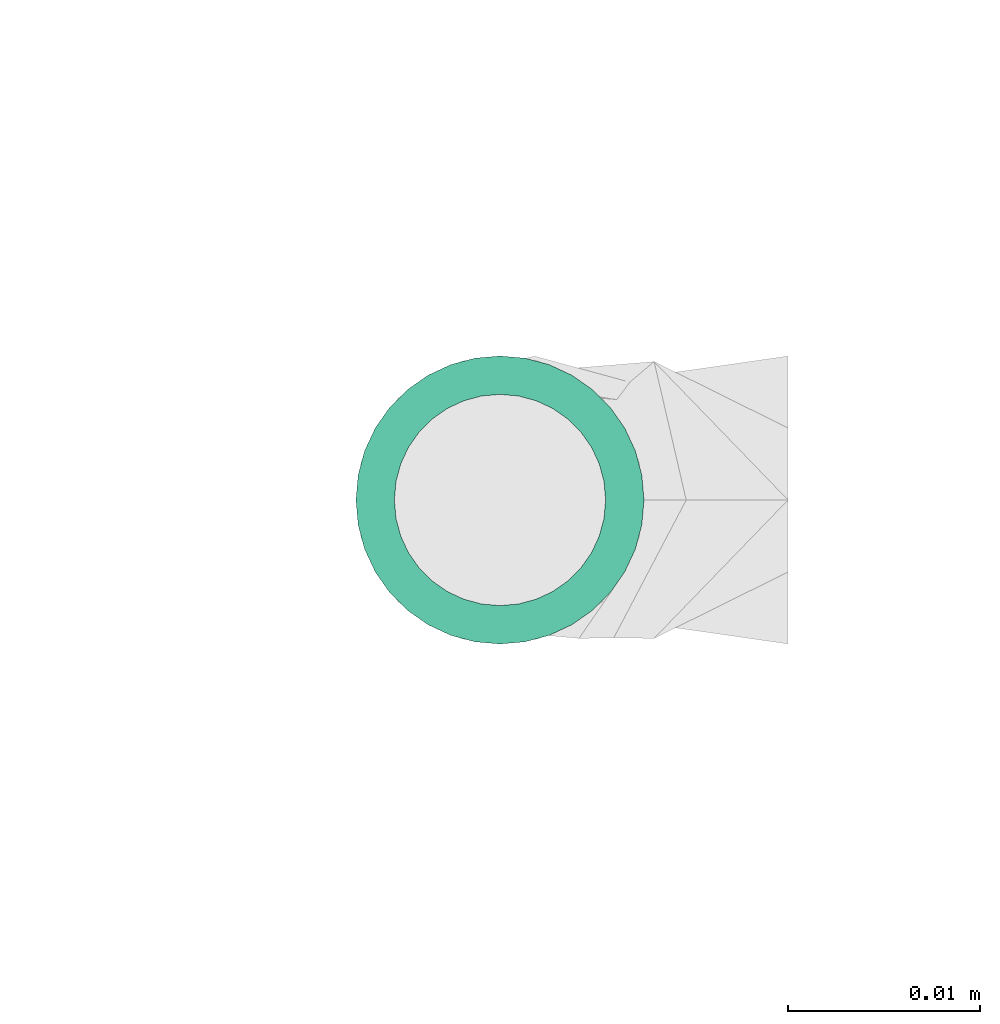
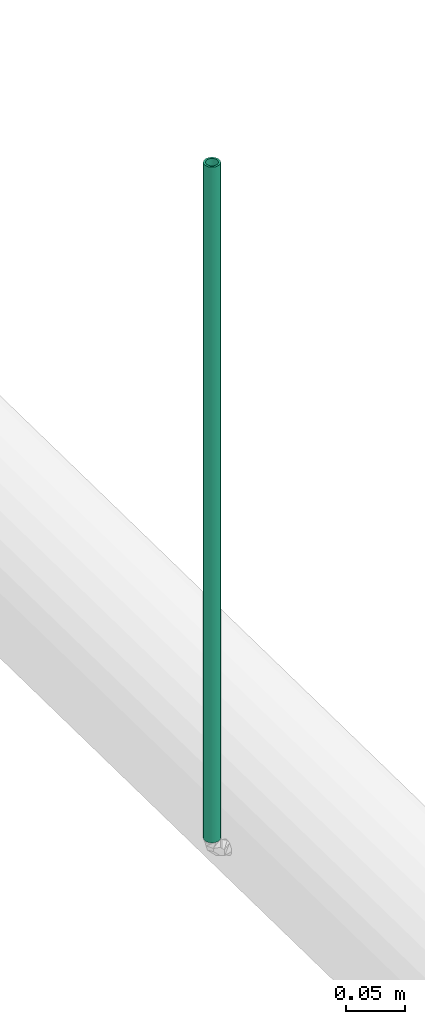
# One storey, part 132 of 156: 1 flow segment.
"""IFC2X3 building model written with IfcOpenShell, lengths in millimetres."""

from ifc_helpers import new_model, entity, si_unit, converted_unit, derived_unit, direction, frame, place, context, subcontext, project, spatial, faceted_brep, type_object, element, save


model = new_model("IFC2X3")

# Units and contexts
model_context = context("Model", 3, precision=0.01, world=frame((0.0, 4.29681676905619e-09, 0.0)), true_north=direction((4.01073788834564e-13, 1.0)))
plan_context = context("Plan", 3, precision=0.01, world=frame((0.0, 4.29681676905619e-09, 0.0)), true_north=direction((4.01073788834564e-13, 1.0)))
body_context = subcontext(model_context, "Body", "Model", "MODEL_VIEW")
ifc_project = project(units=[converted_unit("PLANEANGLEUNIT", "DEGREE", entity("IfcPositiveLengthMeasure", 0.0174532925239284), si_unit("PLANEANGLEUNIT", "RADIAN"), dimensions=[0, 0, 0, 0, 0, 0, 0]), si_unit("AREAUNIT", "SQUARE_METRE"), si_unit("LENGTHUNIT", "METRE", prefix="MILLI"), si_unit("MASSUNIT", "GRAM", prefix="KILO"), si_unit("POWERUNIT", "WATT"), si_unit("PRESSUREUNIT", "PASCAL", prefix="KILO"), si_unit("FORCEUNIT", "NEWTON", prefix="KILO"), si_unit("ELECTRICVOLTAGEUNIT", "VOLT"), si_unit("ELECTRICCURRENTUNIT", "AMPERE"), si_unit("THERMODYNAMICTEMPERATUREUNIT", "DEGREE_CELSIUS"), si_unit("TIMEUNIT", "SECOND"), si_unit("VOLUMEUNIT", "CUBIC_METRE"), derived_unit("LINEARVELOCITYUNIT", [(si_unit("LENGTHUNIT", "METRE"), 1), (si_unit("TIMEUNIT", "SECOND"), -1)]), derived_unit("VOLUMETRICFLOWRATEUNIT", [(si_unit("VOLUMEUNIT", "CUBIC_METRE"), 1), (si_unit("TIMEUNIT", "SECOND"), -1)]), derived_unit("THERMALTRANSMITTANCEUNIT", [(si_unit("POWERUNIT", "WATT"), 1), (si_unit("THERMODYNAMICTEMPERATUREUNIT", "KELVIN"), -1), (si_unit("AREAUNIT", "SQUARE_METRE"), -1)]), derived_unit("SOUNDPRESSUREUNIT", [(si_unit("PRESSUREUNIT", "PASCAL"), 1)])], contexts=[model_context, plan_context])

# Site, building, storey
site_placement = place(None, frame((0.0, -4.29681676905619e-09, 0.0), z_axis=(0.0, 0.0, 1.0), x_axis=(1.0, 0.0, 0.0)))
site = spatial("IfcSite", under=ifc_project, at=site_placement, CompositionType="ELEMENT")
building_placement = place(site_placement, frame((0.0, 4.29681676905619e-09, 0.0), z_axis=(0.0, 0.0, 1.0), x_axis=(1.0, 0.0, 0.0)))
building = spatial("IfcBuilding", under=site, at=building_placement, Name="mc-building", CompositionType="ELEMENT")
storey_placement = place(building_placement, frame((0.0, 0.0, 205200.0), z_axis=(0.0, 0.0, 1.0), x_axis=(1.0, 0.0, 0.0)))
storey = spatial("IfcBuildingStorey", under=building, at=storey_placement, Name="Nivå D + 1,2 m", CompositionType="ELEMENT", Elevation=205200.0)

# Flow segment
pipe_segment_type = type_object("IfcPipeSegmentType", Name="Kobberrør", PredefinedType="RIGIDSEGMENT")
flow_segment_placement = place(storey_placement, frame((324038.4875, 463170.0, 7798.40148), z_axis=(0.0, 1.0, 0.0), x_axis=(0.0, 0.0, 1.0)))
element("IfcFlowSegment", 1, at=flow_segment_placement, inside=storey, type_object=pipe_segment_type, Name="Kobberrør", context=body_context, shape_type="Brep", body=[
    faceted_brep([(701.59852, 5.5, 0.0), (701.598519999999, 5.41644264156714, -0.955064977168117), (0.0, 5.41644264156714, -0.955064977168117), (0.0, 5.5, 0.0), (701.598519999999, 5.16830941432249, -1.88111078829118), (0.0, 5.16830941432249, -1.88111078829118), (701.598519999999, 4.76313972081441, -2.75), (0.0, 4.76313972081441, -2.75), (701.598519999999, 4.21324443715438, -3.53533185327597), (0.0, 4.21324443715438, -3.53533185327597), (701.598519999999, 3.53533185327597, -4.21324443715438), (0.0, 3.53533185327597, -4.21324443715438), (701.598519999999, 2.75, -4.76313972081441), (0.0, 2.75, -4.76313972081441), (701.598519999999, 1.88111078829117, -5.1683094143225), (0.0, 1.88111078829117, -5.1683094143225), (701.598519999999, 0.955064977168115, -5.41644264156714), (0.0, 0.955064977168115, -5.41644264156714), (701.598519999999, -1.01033360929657e-15, -5.5), (0.0, -1.01033360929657e-15, -5.5), (701.598519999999, -0.955064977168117, -5.41644264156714), (0.0, -0.955064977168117, -5.41644264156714), (701.598519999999, -1.88111078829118, -5.1683094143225), (0.0, -1.88111078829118, -5.1683094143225), (701.598519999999, -2.75, -4.76313972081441), (0.0, -2.75, -4.76313972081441), (701.598519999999, -3.53533185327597, -4.21324443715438), (0.0, -3.53533185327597, -4.21324443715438), (701.598519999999, -4.21324443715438, -3.53533185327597), (0.0, -4.21324443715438, -3.53533185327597), (701.598519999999, -4.76313972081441, -2.75), (0.0, -4.76313972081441, -2.75), (701.598519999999, -5.1683094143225, -1.88111078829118), (0.0, -5.1683094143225, -1.88111078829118), (701.598519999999, -5.41644264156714, -0.955064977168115), (0.0, -5.41644264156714, -0.955064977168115), (701.598519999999, -5.5, 6.73555739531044e-16), (0.0, -5.5, 6.73555739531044e-16), (701.598519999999, -5.41644264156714, 0.955064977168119), (0.0, -5.41644264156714, 0.955064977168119), (701.598519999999, -5.1683094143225, 1.88111078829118), (0.0, -5.1683094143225, 1.88111078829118), (701.598519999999, -4.76313972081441, 2.75), (0.0, -4.76313972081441, 2.75), (701.598519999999, -4.21324443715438, 3.53533185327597), (0.0, -4.21324443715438, 3.53533185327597), (701.598519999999, -3.53533185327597, 4.21324443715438), (0.0, -3.53533185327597, 4.21324443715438), (701.598519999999, -2.75, 4.76313972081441), (0.0, -2.75, 4.76313972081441), (701.598519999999, -1.88111078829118, 5.1683094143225), (0.0, -1.88111078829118, 5.1683094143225), (701.598519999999, -0.955064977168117, 5.41644264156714), (0.0, -0.955064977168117, 5.41644264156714), (701.598519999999, 3.36777869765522e-16, 5.5), (0.0, 3.36777869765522e-16, 5.5), (701.598519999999, 0.955064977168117, 5.41644264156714), (0.0, 0.955064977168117, 5.41644264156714), (701.598519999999, 1.88111078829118, 5.1683094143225), (0.0, 1.88111078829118, 5.1683094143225), (701.598519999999, 2.75, 4.76313972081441), (0.0, 2.75, 4.76313972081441), (701.598519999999, 3.53533185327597, 4.21324443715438), (0.0, 3.53533185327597, 4.21324443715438), (701.598519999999, 4.21324443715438, 3.53533185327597), (0.0, 4.21324443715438, 3.53533185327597), (701.598519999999, 4.76313972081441, 2.75), (0.0, 4.76313972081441, 2.75), (701.598519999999, 5.1683094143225, 1.88111078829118), (0.0, 5.1683094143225, 1.88111078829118), (701.598519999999, 5.41644264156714, 0.955064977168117), (0.0, 5.41644264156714, 0.955064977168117), (701.59852, 7.38605814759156, -1.30236133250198), (701.598519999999, 7.5, 0.0), (0.0, 7.5, 0.0), (0.0, 7.38605814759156, -1.30236133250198), (701.598519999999, 7.38605814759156, 1.30236133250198), (0.0, 7.38605814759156, 1.30236133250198), (701.598519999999, 7.04769465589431, 2.56515107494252), (0.0, 7.04769465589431, 2.56515107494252), (701.598519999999, 6.49519052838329, 3.75), (0.0, 6.49519052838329, 3.75), (701.598519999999, 5.74533332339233, 4.82090707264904), (0.0, 5.74533332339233, 4.82090707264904), (701.598519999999, 4.82090707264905, 5.74533332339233), (0.0, 4.82090707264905, 5.74533332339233), (701.598519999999, 3.75, 6.49519052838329), (0.0, 3.75, 6.49519052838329), (701.598519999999, 2.56515107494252, 7.04769465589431), (0.0, 2.56515107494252, 7.04769465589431), (701.598519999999, 1.30236133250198, 7.38605814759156), (0.0, 1.30236133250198, 7.38605814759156), (701.598519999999, 4.59242549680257e-16, 7.5), (0.0, 4.59242549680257e-16, 7.5), (701.598519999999, -1.30236133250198, 7.38605814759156), (0.0, -1.30236133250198, 7.38605814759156), (701.598519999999, -2.56515107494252, 7.04769465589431), (0.0, -2.56515107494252, 7.04769465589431), (701.598519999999, -3.75, 6.49519052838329), (0.0, -3.75, 6.49519052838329), (701.598519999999, -4.82090707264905, 5.74533332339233), (0.0, -4.82090707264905, 5.74533332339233), (701.598519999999, -5.74533332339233, 4.82090707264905), (0.0, -5.74533332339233, 4.82090707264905), (701.598519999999, -6.49519052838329, 3.75), (0.0, -6.49519052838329, 3.75), (701.598519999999, -7.04769465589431, 2.56515107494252), (0.0, -7.04769465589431, 2.56515107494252), (701.598519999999, -7.38605814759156, 1.30236133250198), (0.0, -7.38605814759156, 1.30236133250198), (701.598519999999, -7.5, 9.18485099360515e-16), (0.0, -7.5, 9.18485099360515e-16), (701.598519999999, -7.38605814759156, -1.30236133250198), (0.0, -7.38605814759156, -1.30236133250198), (701.598519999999, -7.04769465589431, -2.56515107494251), (0.0, -7.04769465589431, -2.56515107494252), (701.598519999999, -6.49519052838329, -3.75), (0.0, -6.49519052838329, -3.75), (701.598519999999, -5.74533332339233, -4.82090707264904), (0.0, -5.74533332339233, -4.82090707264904), (701.598519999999, -4.82090707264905, -5.74533332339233), (0.0, -4.82090707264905, -5.74533332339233), (701.598519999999, -3.75, -6.49519052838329), (0.0, -3.75, -6.49519052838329), (701.598519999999, -2.56515107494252, -7.04769465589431), (0.0, -2.56515107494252, -7.04769465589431), (701.598519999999, -1.30236133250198, -7.38605814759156), (0.0, -1.30236133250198, -7.38605814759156), (701.598519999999, -1.37772764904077e-15, -7.5), (0.0, -1.37772764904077e-15, -7.5), (701.598519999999, 1.30236133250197, -7.38605814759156), (0.0, 1.30236133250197, -7.38605814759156), (701.598519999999, 2.56515107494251, -7.04769465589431), (0.0, 2.56515107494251, -7.04769465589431), (701.598519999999, 3.75, -6.49519052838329), (0.0, 3.75, -6.49519052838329), (701.598519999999, 4.82090707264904, -5.74533332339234), (0.0, 4.82090707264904, -5.74533332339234), (701.598519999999, 5.74533332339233, -4.82090707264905), (0.0, 5.74533332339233, -4.82090707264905), (701.598519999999, 6.49519052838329, -3.75), (0.0, 6.49519052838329, -3.75), (701.598519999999, 7.04769465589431, -2.56515107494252), (0.0, 7.04769465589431, -2.56515107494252)], [[[0, 1, 2, 3]], [[1, 4, 5, 2]], [[4, 6, 7, 5]], [[6, 8, 9, 7]], [[8, 10, 11, 9]], [[10, 12, 13, 11]], [[12, 14, 15, 13]], [[14, 16, 17, 15]], [[16, 18, 19, 17]], [[18, 20, 21, 19]], [[20, 22, 23, 21]], [[22, 24, 25, 23]], [[24, 26, 27, 25]], [[26, 28, 29, 27]], [[28, 30, 31, 29]], [[30, 32, 33, 31]], [[32, 34, 35, 33]], [[34, 36, 37, 35]], [[36, 38, 39, 37]], [[38, 40, 41, 39]], [[40, 42, 43, 41]], [[42, 44, 45, 43]], [[44, 46, 47, 45]], [[46, 48, 49, 47]], [[48, 50, 51, 49]], [[50, 52, 53, 51]], [[52, 54, 55, 53]], [[54, 56, 57, 55]], [[56, 58, 59, 57]], [[58, 60, 61, 59]], [[60, 62, 63, 61]], [[62, 64, 65, 63]], [[64, 66, 67, 65]], [[66, 68, 69, 67]], [[68, 70, 71, 69]], [[70, 0, 3, 71]], [[72, 73, 74, 75]], [[73, 76, 77, 74]], [[76, 78, 79, 77]], [[78, 80, 81, 79]], [[80, 82, 83, 81]], [[82, 84, 85, 83]], [[84, 86, 87, 85]], [[86, 88, 89, 87]], [[88, 90, 91, 89]], [[90, 92, 93, 91]], [[92, 94, 95, 93]], [[94, 96, 97, 95]], [[96, 98, 99, 97]], [[98, 100, 101, 99]], [[100, 102, 103, 101]], [[102, 104, 105, 103]], [[104, 106, 107, 105]], [[106, 108, 109, 107]], [[108, 110, 111, 109]], [[110, 112, 113, 111]], [[112, 114, 115, 113]], [[114, 116, 117, 115]], [[116, 118, 119, 117]], [[118, 120, 121, 119]], [[120, 122, 123, 121]], [[122, 124, 125, 123]], [[124, 126, 127, 125]], [[126, 128, 129, 127]], [[128, 130, 131, 129]], [[130, 132, 133, 131]], [[132, 134, 135, 133]], [[134, 136, 137, 135]], [[136, 138, 139, 137]], [[138, 140, 141, 139]], [[140, 142, 143, 141]], [[142, 72, 75, 143]], [[75, 74, 77, 79, 81, 83, 85, 87, 89, 91, 93, 95, 97, 99, 101, 103, 105, 107, 109, 111, 113, 115, 117, 119, 121, 123, 125, 127, 129, 131, 133, 135, 137, 139, 141, 143], [3, 2, 5, 7, 9, 11, 13, 15, 17, 19, 21, 23, 25, 27, 29, 31, 33, 35, 37, 39, 41, 43, 45, 47, 49, 51, 53, 55, 57, 59, 61, 63, 65, 67, 69, 71]], [[142, 140, 138, 136, 134, 132, 130, 128, 126, 124, 122, 120, 118, 116, 114, 112, 110, 108, 106, 104, 102, 100, 98, 96, 94, 92, 90, 88, 86, 84, 82, 80, 78, 76, 73, 72], [70, 68, 66, 64, 62, 60, 58, 56, 54, 52, 50, 48, 46, 44, 42, 40, 38, 36, 34, 32, 30, 28, 26, 24, 22, 20, 18, 16, 14, 12, 10, 8, 6, 4, 1, 0]]], orient=[[False], [False], [False], [False], [False], [False], [False], [False], [False], [False], [False], [False], [False], [False], [False], [False], [False], [False], [False], [False], [False], [False], [False], [False], [False], [False], [False], [False], [False], [False], [False], [False], [False], [False], [False], [False], [False], [False], [False], [False], [False], [False], [False], [False], [False], [False], [False], [False], [False], [False], [False], [False], [False], [False], [False], [False], [False], [False], [False], [False], [False], [False], [False], [False], [False], [False], [False], [False], [False], [False], [False], [False], [False, False], [False, False]]),
])

save(model, "model.ifc")
